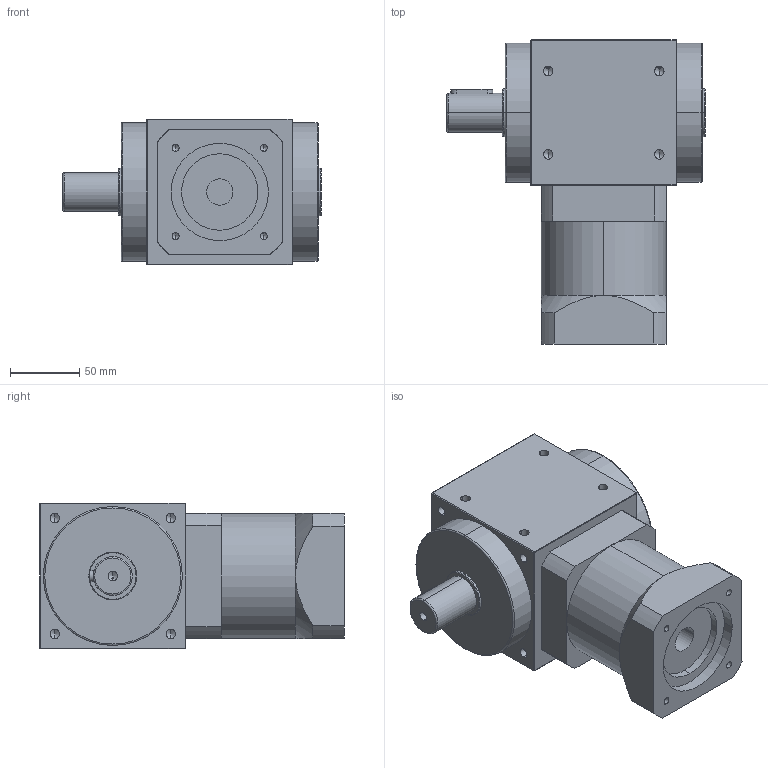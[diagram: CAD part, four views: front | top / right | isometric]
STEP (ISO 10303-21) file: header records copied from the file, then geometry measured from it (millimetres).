
FILE_DESCRIPTION (( 'STEP AP214' ), '1' );
FILE_NAME ('PAW105A-L1-P(3-10) 19-70-90-M6.STEP', '2020-12-05T09:25:12', ( '微软用户' ), ( '微软中国' ), 'SwSTEP 2.0', 'SolidWorks 2014', '' );
FILE_SCHEMA (( 'AUTOMOTIVE_DESIGN' ));
Length unit declared in the file: millimetre
Products named in the file (2): PAW105A-L1-P(3-10) 19-70-90-M6
Bounding box: 186 x 219 x 105 mm (x, y, z)
Volume: 2215014.1 mm3; surface area: 149772.6 mm2
Topology: 2 solids, 2 shells, 200 faces, 474 edges, 255 vertices
Faces by surface type: cylinder 80, cone 60, plane 54, torus 6
Entity records: 7788 total; most frequent: CARTESIAN_POINT 1131, DIRECTION 982, ORIENTED_EDGE 848, EDGE_CURVE 424, AXIS2_PLACEMENT_3D 382, VERTEX_POINT 255, EDGE_LOOP 235, LINE 218
